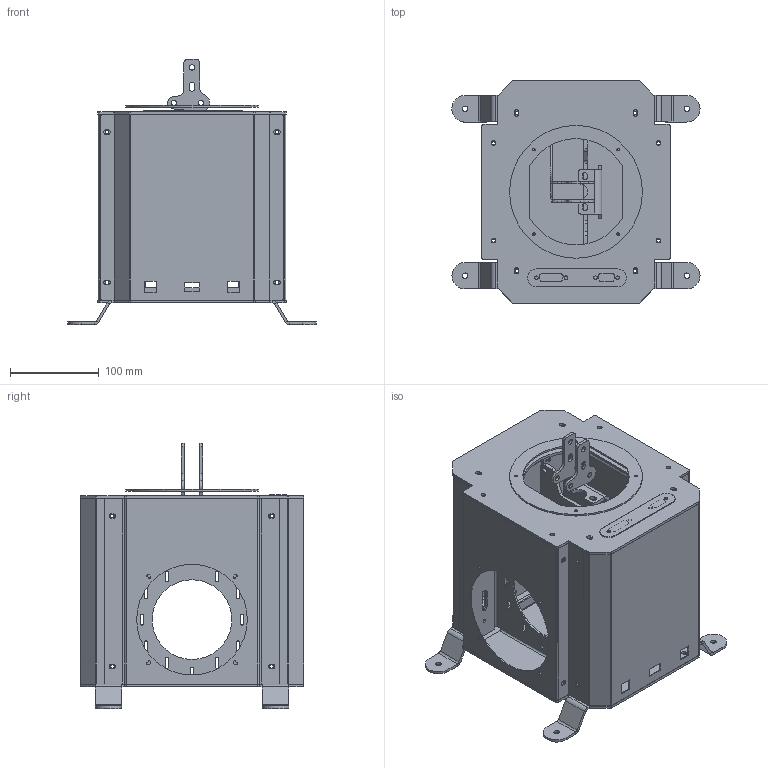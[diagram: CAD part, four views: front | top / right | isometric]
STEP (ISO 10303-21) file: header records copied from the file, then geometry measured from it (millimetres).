
FILE_DESCRIPTION(/* description */ (''),/* implementation_level */ '2;1');
FILE_NAME(/* name */ 'FFB.rev III bend.step',/* time_stamp */ '2023-10-02T06:33:56+03:00',/* author */ (''),/* organization */ (''),/* preprocessor_version */ 'ST-DEVELOPER v20',/* originating_system */ 'Autodesk Translation Framework v12.14.0.127',/* authorisation */ '');
FILE_SCHEMA (('AUTOMOTIVE_DESIGN { 1 0 10303 214 3 1 1 }'));
Length unit declared in the file: millimetre
Products named in the file (6): FFB.rev III; Component5; Component7; Component8; Component9; Component12
Assembly tree (6 placements, depth 2):
  FFB.rev III
    Component5
    Component7
    Component8
    Component9
    Component12  x2
Bounding box: 280.23 x 252.5 x 299.49 mm (x, y, z)
Volume: 927168.2 mm3; surface area: 996700.4 mm2
Topology: 20 solids, 20 shells, 1257 faces, 3400 edges, 2183 vertices
Faces by surface type: plane 662, cylinder 594, bspline 1
Full cylindrical faces by diameter (mm): 2.2 x1, 2.5 x21, 3.1 x28, 4 x14, 4.2 x42, 5 x1, 5.2 x8, 6 x6, 6.1 x29, 6.2 x1, 21.9 x5, 22 x2, 22.1 x1, 90 x2, 125 x2, 150 x1
Entity records: 40113 total; most frequent: DIRECTION 7004, CARTESIAN_POINT 6773, ORIENTED_EDGE 6692, EDGE_CURVE 3346, AXIS2_PLACEMENT_3D 2412, LINE 2180, VECTOR 2180, VERTEX_POINT 2147
